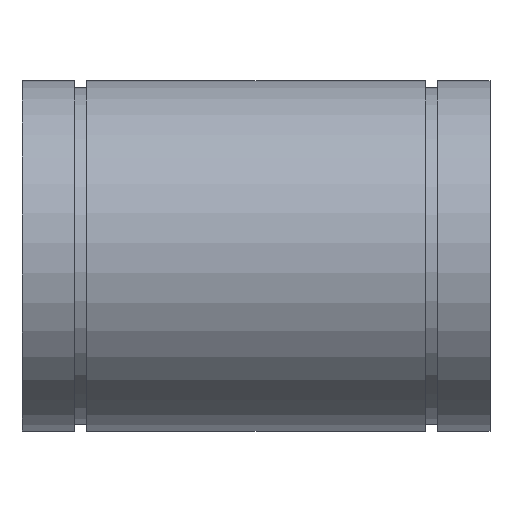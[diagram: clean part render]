
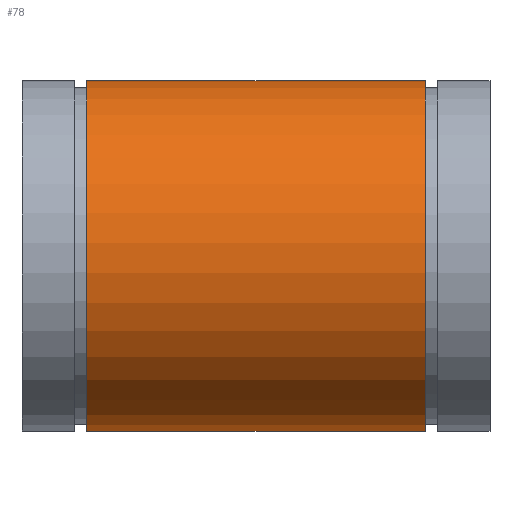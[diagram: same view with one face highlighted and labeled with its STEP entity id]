
A CAD part, front view. The second image highlights one B-rep face of the part: STEP entity #78.
In plain terms, the highlighted cylindrical face has radius 37.5 mm (diameter 75 mm), a partial arc.
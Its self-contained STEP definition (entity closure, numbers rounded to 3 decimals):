
#78 = ADVANCED_FACE( '', ( #96 ), #97, .T. );
#96 = FACE_OUTER_BOUND( '', #124, .T. );
#97 = CYLINDRICAL_SURFACE( '', #125, 37.5 );
#124 = EDGE_LOOP( '', ( #167, #168, #169, #170 ) );
#125 = AXIS2_PLACEMENT_3D( '', #171, #172, #173 );
#167 = ORIENTED_EDGE( '', *, *, #271, .T. );
#168 = ORIENTED_EDGE( '', *, *, #272, .T. );
#169 = ORIENTED_EDGE( '', *, *, #273, .F. );
#170 = ORIENTED_EDGE( '', *, *, #274, .T. );
#171 = CARTESIAN_POINT( '', ( 100., 0., 0. ) );
#172 = DIRECTION( '', ( -1., 0., 0. ) );
#173 = DIRECTION( '', ( 0., 0., -1. ) );
#271 = EDGE_CURVE( '', #317, #318, #319, .T. );
#272 = EDGE_CURVE( '', #318, #320, #321, .T. );
#273 = EDGE_CURVE( '', #322, #320, #323, .T. );
#274 = EDGE_CURVE( '', #322, #317, #324, .F. );
#317 = VERTEX_POINT( '', #383 );
#318 = VERTEX_POINT( '', #384 );
#319 = CIRCLE( '', #385, 37.5 );
#320 = VERTEX_POINT( '', #386 );
#321 = LINE( '', #387, #388 );
#322 = VERTEX_POINT( '', #389 );
#323 = CIRCLE( '', #390, 37.5 );
#324 = LINE( '', #391, #392 );
#383 = CARTESIAN_POINT( '', ( 13.85, 25.435, 27.556 ) );
#384 = CARTESIAN_POINT( '', ( 13.85, 27.556, 25.435 ) );
#385 = AXIS2_PLACEMENT_3D( '', #461, #462, #463 );
#386 = CARTESIAN_POINT( '', ( 86.15, 27.556, 25.435 ) );
#387 = CARTESIAN_POINT( '', ( 100., 27.556, 25.435 ) );
#388 = VECTOR( '', #464, 1000. );
#389 = CARTESIAN_POINT( '', ( 86.15, 25.435, 27.556 ) );
#390 = AXIS2_PLACEMENT_3D( '', #465, #466, #467 );
#391 = CARTESIAN_POINT( '', ( 100., 25.435, 27.556 ) );
#392 = VECTOR( '', #468, 1000. );
#461 = CARTESIAN_POINT( '', ( 13.85, 0., 0. ) );
#462 = DIRECTION( '', ( 1., 0., 0. ) );
#463 = DIRECTION( '', ( 0., 0., -1. ) );
#464 = DIRECTION( '', ( 1., 0., 0. ) );
#465 = CARTESIAN_POINT( '', ( 86.15, 0., 0. ) );
#466 = DIRECTION( '', ( 1., 0., 0. ) );
#467 = DIRECTION( '', ( 0., 0., -1. ) );
#468 = DIRECTION( '', ( 1., 0., 0. ) );
